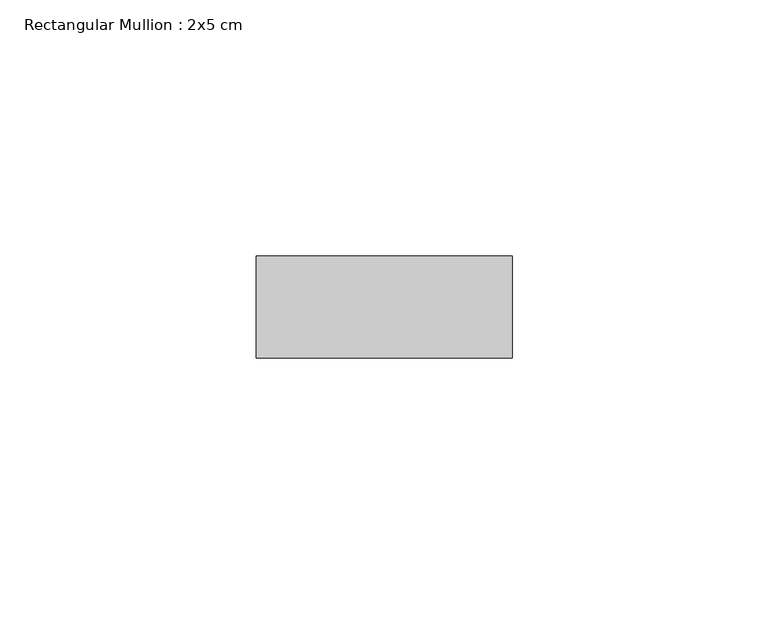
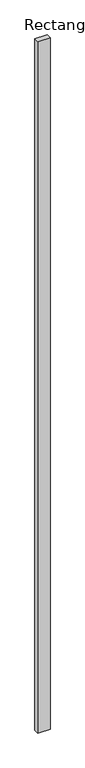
"""IFC4 building model written with IfcOpenShell, lengths in millimetres: member geometry, Rectangular Mullion : 2x5 cm."""

from ifc_helpers import new_model, si_unit, frame, origin, place, context, project, spatial, polyline, outline, extrude, source, transform, mapped, element, save


def rectangular_mullion_2x5_cm_34600df6(model_context):
    return source(origin(), model_context, "Body", "SweptSolid", [
        extrude(outline(polyline([(50.0, 20.0), (50.0, 0.0), (0.0, 0.0), (0.0, 20.0), (50.0, 20.0)])), frame((0.0, 0.0, -2980.1181619), z_axis=(0.0, 0.0, 1.0), x_axis=(1.0, 0.0, 0.0)), (0.0, 0.0, 1.0), 2980.1181619),
    ])


if __name__ == "__main__":
    model = new_model("IFC4")
    model_context = context("Model", 3, world=origin())
    ifc_project = project(units=[si_unit("LENGTHUNIT", "METRE", prefix="MILLI")], contexts=[model_context])
    site = spatial("IfcSite", under=ifc_project)
    building = spatial("IfcBuilding", under=site)
    placement = place(None, origin())
    rectangular_mullion_2x5_cm_shape = rectangular_mullion_2x5_cm_34600df6(model_context)
    element("IfcMember", 1, ObjectType="Rectangular Mullion : 2x5 cm", at=placement, inside=building, context=model_context, shape_type="MappedRepresentation", body=[
        mapped(rectangular_mullion_2x5_cm_shape, transform((0.0, 0.0, 0.0), x_axis=(1.0, 0.0, 0.0), y_axis=(0.0, 1.0, 0.0), z_axis=(0.0, 0.0, 1.0))),
    ])
    save(model, "model.ifc")
